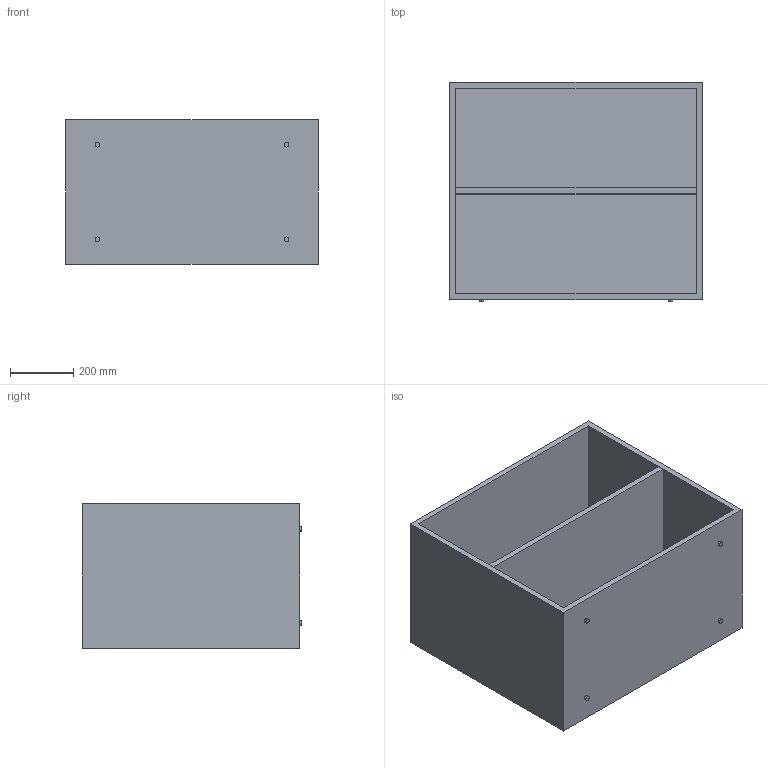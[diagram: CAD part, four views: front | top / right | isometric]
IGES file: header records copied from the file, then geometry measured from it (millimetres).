
Start section: SolidWorks IGES file using NURBS representation for surfaces
Global section: file name: G:\VICCARBE\PRODUCTOS\12-LEG-IN\04-MODELADOS (PLANOS)\SOLIDWORKS\LEG_IN 2011\ENSAMBLAJES\Mesas 3D\IGES\BUCS\VICCARBE_DO800.IGS; native system: SolidWorks 2009; preprocessor: SolidWorks 2009; author: RUBEN; date: 111024.103834; units: millimetre
Bounding box: 800 x 697 x 460 mm (x, y, z)
Surface area: 4480575.5 mm2 (no closed solid volume)
Topology: 0 solids, 0 shells, 29 faces, 360 edges, 360 vertices
Faces by surface type: bspline 29
